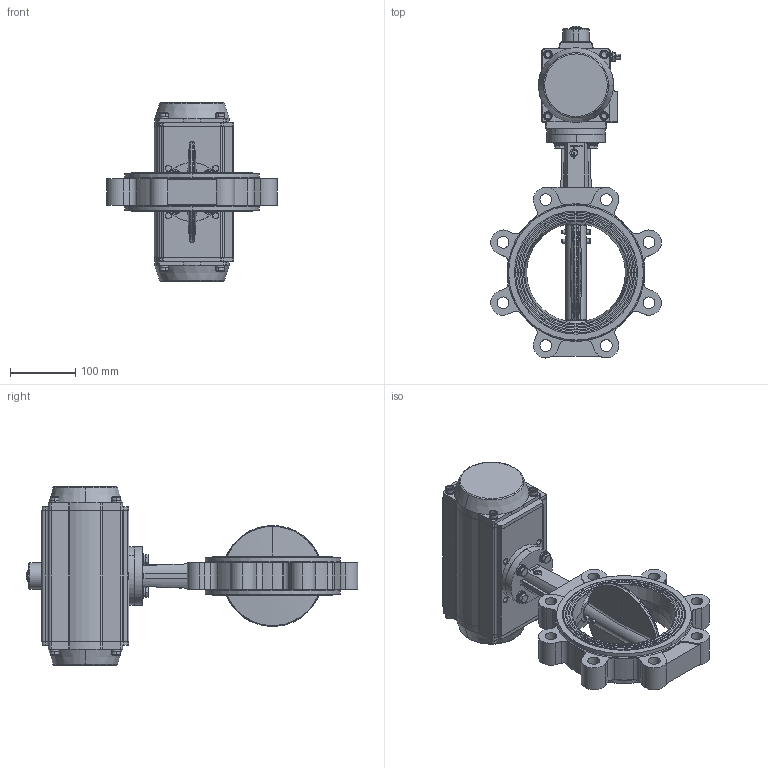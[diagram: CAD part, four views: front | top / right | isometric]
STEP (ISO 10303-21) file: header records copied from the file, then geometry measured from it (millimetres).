
FILE_DESCRIPTION (( 'STEP AP214' ), '1' );
FILE_NAME ('VPG464X-N03XX0150.step', '2022-06-27T15:50:20', ( '' ), ( '' ), 'SwSTEP 2.0', 'SolidWorks 2020', '' );
FILE_SCHEMA (( 'AUTOMOTIVE_DESIGN' ));
Length unit declared in the file: millimetre
Products named in the file (1): VPG464X-N03XX0150
Bounding box: 260.64 x 506.94 x 272 mm (x, y, z)
Surface area: 428867.2 mm2 (no closed solid volume)
Topology: 0 solids, 77 shells, 748 faces, 4286 edges, 3597 vertices
Faces by surface type: plane 307, cylinder 240, cone 101, bspline 96, torus 4
Entity records: 69032 total; most frequent: CARTESIAN_POINT 30108, ORIENTED_EDGE 5840, DIRECTION 5310, EDGE_CURVE 4282, VERTEX_POINT 3597, LINE 2196, VECTOR 2196, AXIS2_PLACEMENT_3D 1557
